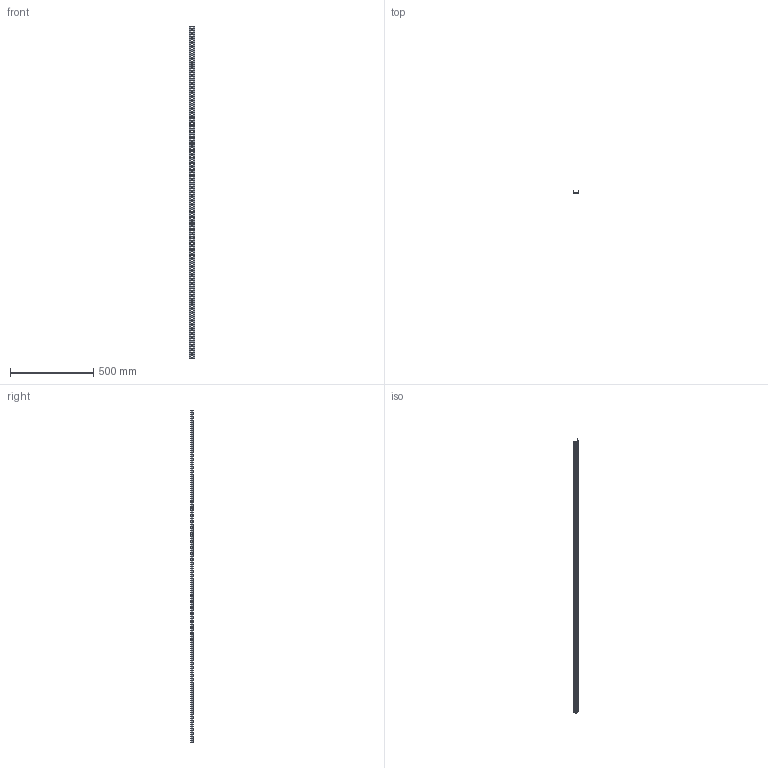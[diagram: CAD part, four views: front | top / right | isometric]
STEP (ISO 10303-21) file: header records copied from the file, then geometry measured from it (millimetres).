
FILE_DESCRIPTION (( 'STEP AP214' ), '1' );
FILE_NAME ('DIN-ðåéêà 15õ0,1 ìì 2000.STEP', '2025-10-22T11:29:09', ( '' ), ( '' ), 'SwSTEP 2.0', 'SolidWorks 2018', '' );
FILE_SCHEMA (( 'AUTOMOTIVE_DESIGN' ));
Length unit declared in the file: millimetre
Products named in the file (1): DIN-ðåéêà 15õ0,1 ìì 2000
Bounding box: 35.2 x 16 x 2000 mm (x, y, z)
Volume: 111941.7 mm3; surface area: 231429.1 mm2
Topology: 1 solids, 1 shells, 438 faces, 1276 edges, 840 vertices
Faces by surface type: cylinder 248, plane 190
Entity records: 14974 total; most frequent: DIRECTION 2650, CARTESIAN_POINT 2555, ORIENTED_EDGE 2552, EDGE_CURVE 1276, AXIS2_PLACEMENT_3D 935, VERTEX_POINT 840, LINE 780, VECTOR 780
